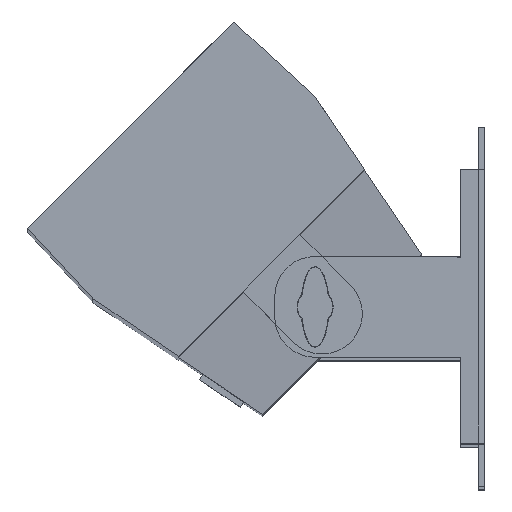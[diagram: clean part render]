
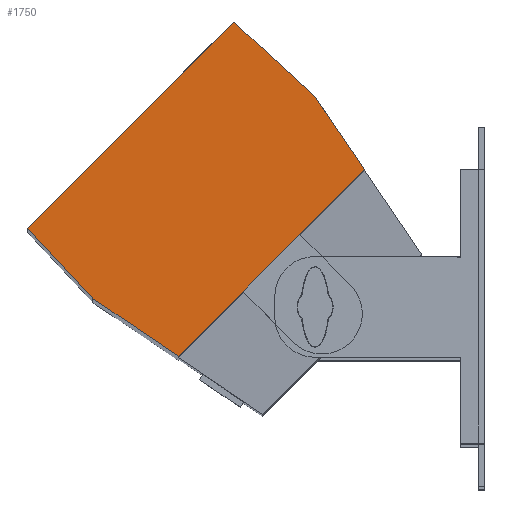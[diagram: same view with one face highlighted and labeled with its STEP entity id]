
A CAD part, top view. The second image highlights one B-rep face of the part: STEP entity #1750.
In plain terms, the highlighted planar face has unit normal (0, 0, 1).
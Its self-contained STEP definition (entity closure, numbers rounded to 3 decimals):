
#226=FACE_OUTER_BOUND('',#344,.T.);
#344=EDGE_LOOP('',(#1571,#1572,#1573,#1574,#1575,#1576));
#516=LINE('',#5958,#700);
#520=LINE('',#5965,#704);
#522=LINE('',#5969,#706);
#524=LINE('',#5973,#708);
#526=LINE('',#5977,#710);
#528=LINE('',#5980,#712);
#700=VECTOR('',#2413,10.);
#704=VECTOR('',#2421,10.);
#706=VECTOR('',#2425,10.);
#708=VECTOR('',#2429,10.);
#710=VECTOR('',#2433,10.);
#712=VECTOR('',#2437,10.);
#863=VERTEX_POINT('',#5955);
#864=VERTEX_POINT('',#5957);
#865=VERTEX_POINT('',#5964);
#866=VERTEX_POINT('',#5968);
#867=VERTEX_POINT('',#5972);
#868=VERTEX_POINT('',#5976);
#1092=EDGE_CURVE('',#864,#863,#516,.T.);
#1096=EDGE_CURVE('',#865,#864,#520,.T.);
#1098=EDGE_CURVE('',#866,#865,#522,.T.);
#1100=EDGE_CURVE('',#866,#867,#524,.T.);
#1102=EDGE_CURVE('',#868,#867,#526,.T.);
#1104=EDGE_CURVE('',#863,#868,#528,.T.);
#1571=ORIENTED_EDGE('',*,*,#1100,.F.);
#1572=ORIENTED_EDGE('',*,*,#1098,.T.);
#1573=ORIENTED_EDGE('',*,*,#1096,.T.);
#1574=ORIENTED_EDGE('',*,*,#1092,.T.);
#1575=ORIENTED_EDGE('',*,*,#1104,.T.);
#1576=ORIENTED_EDGE('',*,*,#1102,.T.);
#1652=PLANE('',#1984);
#1750=ADVANCED_FACE('',(#226),#1652,.T.);
#1984=AXIS2_PLACEMENT_3D('',#5981,#2438,#2439);
#2413=DIRECTION('',(1.,0.,0.));
#2421=DIRECTION('',(0.188,-0.982,0.));
#2425=DIRECTION('',(-0.036,-0.999,0.));
#2429=DIRECTION('',(1.,0.,0.));
#2433=DIRECTION('',(-0.044,0.999,0.));
#2437=DIRECTION('',(0.188,0.982,0.));
#2438=DIRECTION('center_axis',(0.,0.,1.));
#2439=DIRECTION('ref_axis',(1.,0.,0.));
#5955=CARTESIAN_POINT('',(65.454,-50.8,1338.15));
#5957=CARTESIAN_POINT('',(-65.454,-50.8,1338.15));
#5958=CARTESIAN_POINT('',(-0.326,-50.8,1338.15));
#5964=CARTESIAN_POINT('',(-75.02,-0.699,1338.15));
#5965=CARTESIAN_POINT('',(-75.02,-0.699,1338.15));
#5968=CARTESIAN_POINT('',(-73.32,46.887,1338.15));
#5969=CARTESIAN_POINT('',(-73.32,46.887,1338.15));
#5972=CARTESIAN_POINT('',(71.339,46.887,1338.15));
#5973=CARTESIAN_POINT('',(-0.652,46.887,1338.15));
#5976=CARTESIAN_POINT('',(73.715,-7.532,1338.15));
#5977=CARTESIAN_POINT('',(74.82,-32.831,1338.15));
#5980=CARTESIAN_POINT('',(56.003,-100.3,1338.15));
#5981=CARTESIAN_POINT('Origin',(-0.652,-7.654,1338.15));
